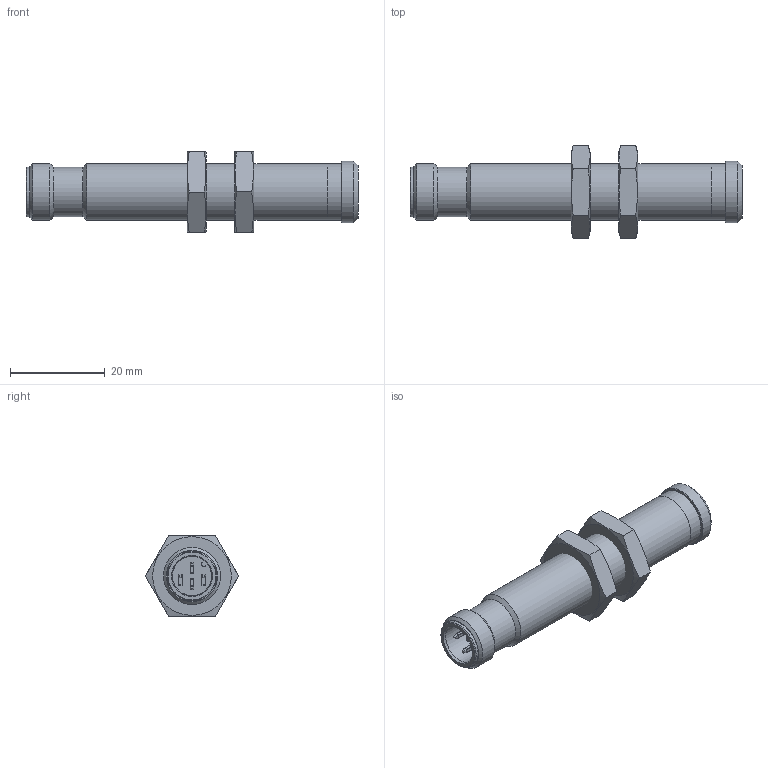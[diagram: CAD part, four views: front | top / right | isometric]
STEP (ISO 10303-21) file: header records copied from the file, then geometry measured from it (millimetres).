
FILE_DESCRIPTION( ( 'Unknown' ), '1' );
FILE_NAME( 'X:/SolidEdge/Models/Dokumentationen/Ultraschall/UNAR 12/Vereinfachte Modelle/Neutralformate/UNAR 12xx91x_S14H.stp', 'Unknown', ( 'Unknown' ), ( 'Unknown' ), 'PSStep 15.0.49', 'Unknown', ' ' );
FILE_SCHEMA( ( 'AUTOMOTIVE_DESIGN { 1 0 10303 214 1 1 1 1 }' ) );
Length unit declared in the file: millimetre
Products named in the file (3): Assem1; UNAR 12xx91x_S14H_oA; 101470
Assembly tree (3 placements, depth 2):
  Assem1
    UNAR 12xx91x_S14H_oA
    101470  x2
Bounding box: 70 x 19.63 x 17 mm (x, y, z)
Volume: 8533.4 mm3; surface area: 4515.8 mm2
Topology: 3 solids, 3 shells, 121 faces, 319 edges, 211 vertices
Faces by surface type: plane 80, cylinder 30, cone 11
Full cylindrical faces by diameter (mm): 10.45 x1, 10.5 x1, 10.917 x2, 12 x3, 13 x1
Entity records: 4238 total; most frequent: CARTESIAN_POINT 625, DIRECTION 564, ORIENTED_EDGE 534, EDGE_CURVE 267, AXIS2_PLACEMENT_3D 195, VERTEX_POINT 184, LINE 174, VECTOR 174
